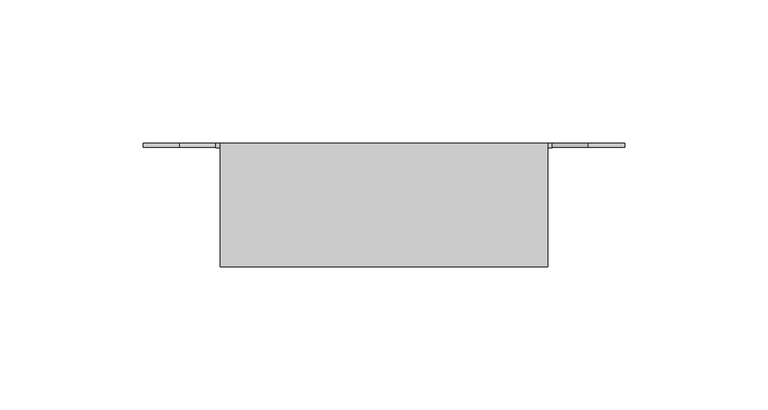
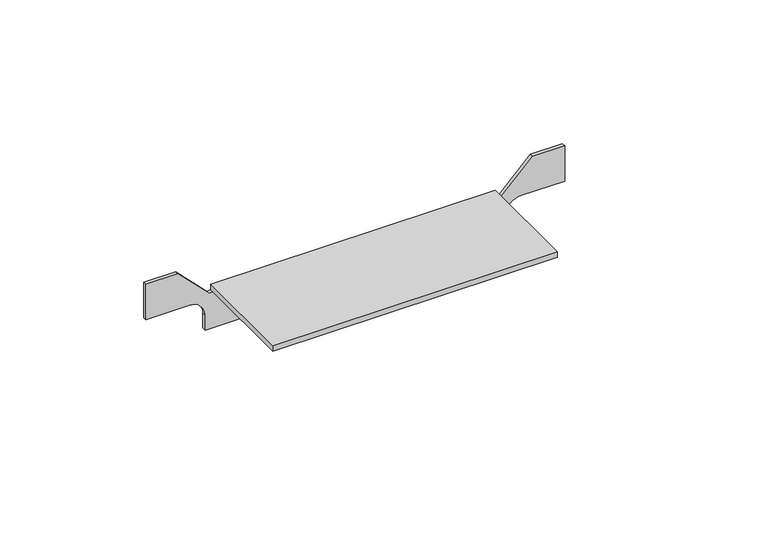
"""IFC4 building model written with IfcOpenShell, lengths in millimetres: proxy geometry, Device_Plate-Resource_Series-Wiremold-RFB4 : Side, For Two CM Series Adapter, DTB-2-2AB."""

from ifc_helpers import new_model, si_unit, frame, origin, place, context, project, spatial, polyline, circle_curve, source, transform, mapped, element, save
from ifc_brep_helpers import plane_surface, revolved_surface, advanced_brep


def electrical_fixtures_fcf9e8a6(model_context):
    return source(origin(), model_context, "Body", "AdvancedBrep", [
        advanced_brep(
        [(57.15, -807.5761924, 17.3736), (-57.15, -807.5761924, 17.3736), (-57.15, -850.7561924, 17.3736), (57.15, -850.7561924, 17.3736), (57.15, -850.7561924, 15.0876), (-57.15, -850.7561924, 15.0876), (-57.15, -809.1001924, 15.0876), (57.15, -809.1001924, 15.0876), (57.15, -807.5761924, 15.0876), (58.7248, -807.5761924, 15.0876), (71.3232, -807.5761924, 27.686), (84.1375, -807.5761924, 27.686), (84.1375, -807.5761924, 12.7), (66.675, -807.5761924, 12.7), (60.325, -807.5761924, 6.35), (60.325, -807.5761924, 0.0), (-60.325, -807.5761924, 0.0), (-60.325, -807.5761924, 6.35), (-66.675, -807.5761924, 12.7), (-84.1375, -807.5761924, 12.7), (-84.1375, -807.5761924, 27.686), (-71.3232, -807.5761924, 27.686), (-58.7248, -807.5761924, 15.0876), (-57.15, -807.5761924, 15.0876), (-84.1375, -809.1001924, 27.686), (-84.1375, -809.1001924, 12.7), (-66.675, -809.1001924, 12.7), (-60.325, -809.1001924, 6.35), (-60.325, -809.1001924, 0.0), (60.325, -809.1001924, 0.0), (60.325, -809.1001924, 6.35), (66.675, -809.1001924, 12.7), (84.1375, -809.1001924, 12.7), (84.1375, -809.1001924, 27.686), (71.3232, -809.1001924, 27.686), (58.7248, -809.1001924, 15.0876), (-58.7248, -809.1001924, 15.0876), (-71.3232, -809.1001924, 27.686)],
        [
            (0, 1),
            (1, 2),
            (2, 3),
            (3, 0),
            (4, 5),
            (5, 6),
            (6, 7),
            (7, 4),
            (0, 8),
            (8, 9),
            (9, 10),
            (10, 11),
            (11, 12),
            (12, 13),
            (13, 14, circle_curve(frame((66.675, -807.5761924, 6.35), z_axis=(0.0, -1.0, 0.0), x_axis=(1.0, 0.0, 0.0)), 6.35)),
            (14, 15),
            (15, 16),
            (16, 17),
            (17, 18, circle_curve(frame((-66.675, -807.5761924, 6.35), z_axis=(0.0, -1.0, 0.0), x_axis=(1.0, 0.0, 0.0)), 6.35)),
            (18, 19),
            (19, 20),
            (20, 21),
            (21, 22),
            (22, 23),
            (23, 1),
            (23, 6),
            (5, 2),
            (4, 3),
            (7, 8),
            (24, 25),
            (25, 26),
            (26, 27, circle_curve(frame((-66.675, -809.1001924, 6.35), z_axis=(0.0, 1.0, 0.0), x_axis=(1.0, 0.0, 0.0)), 6.35)),
            (27, 28),
            (28, 29),
            (29, 30),
            (30, 31, circle_curve(frame((66.675, -809.1001924, 6.35), z_axis=(0.0, 1.0, 0.0), x_axis=(1.0, 0.0, 0.0)), 6.35)),
            (31, 32),
            (32, 33),
            (33, 34),
            (34, 35),
            (35, 7),
            (6, 36),
            (36, 37),
            (37, 24),
            (24, 20),
            (19, 25),
            (18, 26),
            (17, 27),
            (16, 28),
            (15, 29),
            (14, 30),
            (13, 31),
            (12, 32),
            (11, 33),
            (10, 34),
            (9, 35),
            (22, 36),
            (21, 37),
        ],
        [
            plane_surface(frame((-59.6868519, -807.5761924, 17.3736), z_axis=(0.0, 0.0, 1.0), x_axis=(-1.0, 0.0, 0.0))),
            plane_surface(frame((-59.6868519, -807.5761924, 15.0876), z_axis=(0.0, 0.0, -1.0), x_axis=(1.0, 0.0, 0.0))),
            plane_surface(frame((57.15, -807.5761924, 17.3736), z_axis=(0.0, 1.0, 0.0), x_axis=(0.0, 0.0, -1.0))),
            plane_surface(frame((-57.15, -807.5761924, 17.3736), z_axis=(-1.0, 0.0, 0.0), x_axis=(0.0, 0.0, -1.0))),
            plane_surface(frame((-57.15, -850.7561924, 17.3736), z_axis=(0.0, -1.0, 0.0), x_axis=(0.0, 0.0, -1.0))),
            plane_surface(frame((57.15, -850.7561924, 17.3736), z_axis=(1.0, 0.0, 0.0), x_axis=(0.0, 0.0, -1.0))),
            plane_surface(frame((-84.1375, -809.1001924, 12.7), z_axis=(0.0, -1.0, 0.0), x_axis=(0.0, 0.0, -1.0))),
            plane_surface(frame((-84.1375, -809.1001924, 27.686), z_axis=(-1.0, 0.0, 0.0), x_axis=(0.0, 1.0, 0.0))),
            plane_surface(frame((-84.1375, -809.1001924, 12.7), z_axis=(0.0, 0.0, -1.0), x_axis=(0.0, 1.0, 0.0))),
            revolved_surface(polyline([(-60.324999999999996, -807.5761924, 6.35), (-60.324999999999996, -809.1001924, 6.35)]), (-66.675, -807.5761924, 6.35), (0.0, 1.0, 0.0)),
            plane_surface(frame((-60.325, -809.1001924, 6.35), z_axis=(-1.0, 0.0, 0.0), x_axis=(0.0, 1.0, 0.0))),
            plane_surface(frame((-60.325, -809.1001924, 0.0), z_axis=(0.0, 0.0, -1.0), x_axis=(0.0, 1.0, 0.0))),
            plane_surface(frame((60.325, -809.1001924, 0.0), z_axis=(1.0, 0.0, 0.0), x_axis=(0.0, 1.0, 0.0))),
            revolved_surface(polyline([(73.02499999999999, -807.5761924, 6.35), (73.02499999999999, -809.1001924, 6.35)]), (66.675, -807.5761924, 6.35), (0.0, 1.0, 0.0)),
            plane_surface(frame((66.675, -809.1001924, 12.7), z_axis=(0.0, 0.0, -1.0), x_axis=(0.0, 1.0, 0.0))),
            plane_surface(frame((84.1375, -809.1001924, 12.7), z_axis=(1.0, 0.0, 0.0), x_axis=(0.0, 1.0, 0.0))),
            plane_surface(frame((84.1375, -809.1001924, 27.686), z_axis=(0.0, 0.0, 1.0), x_axis=(0.0, 1.0, 0.0))),
            plane_surface(frame((71.3232, -809.1001924, 27.686), z_axis=(-0.7071067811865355, 0.0, 0.7071067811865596), x_axis=(0.0, 1.0, 0.0))),
            plane_surface(frame((58.7248, -809.1001924, 15.0876), z_axis=(0.0, 0.0, 1.0), x_axis=(0.0, 1.0, 0.0))),
            plane_surface(frame((-58.7248, -809.1001924, 15.0876), z_axis=(0.7071067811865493, 0.0, 0.7071067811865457), x_axis=(0.0, 1.0, 0.0))),
            plane_surface(frame((-71.3232, -809.1001924, 27.686), z_axis=(0.0, 0.0, 1.0), x_axis=(0.0, 1.0, 0.0))),
        ],
        [
            (0, [[1, 2, 3, 4]]),
            (1, [[5, 6, 7, 8]]),
            (2, [[-1, 9, 10, 11, 12, 13, 14, 15, 16, 17, 18, 19, 20, 21, 22, 23, 24, 25]]),
            (3, [[-2, -25, 26, -6, 27]]),
            (4, [[-3, -27, -5, 28]]),
            (5, [[-4, -28, -8, 29, -9]]),
            (6, [[30, 31, 32, 33, 34, 35, 36, 37, 38, 39, 40, 41, -7, 42, 43, 44]]),
            (7, [[-30, 45, -21, 46]]),
            (8, [[-31, -46, -20, 47]]),
            (9, [[-32, -47, -19, 48]]),
            (10, [[-33, -48, -18, 49]]),
            (11, [[-34, -49, -17, 50]]),
            (12, [[-35, -50, -16, 51]]),
            (13, [[-36, -51, -15, 52]]),
            (14, [[-37, -52, -14, 53]]),
            (15, [[-38, -53, -13, 54]]),
            (16, [[-39, -54, -12, 55]]),
            (17, [[-40, -55, -11, 56]]),
            (18, [[-56, -10, -29, -41]]),
            (18, [[57, -42, -26, -24]]),
            (19, [[-43, -57, -23, 58]]),
            (20, [[-44, -58, -22, -45]]),
        ],
    ),
    ])


if __name__ == "__main__":
    model = new_model("IFC4")
    model_context = context("Model", 3, world=origin())
    ifc_project = project(units=[si_unit("LENGTHUNIT", "METRE", prefix="MILLI")], contexts=[model_context])
    site = spatial("IfcSite", under=ifc_project)
    building = spatial("IfcBuilding", under=site)
    placement = place(None, origin())
    electrical_fixtures_shape = electrical_fixtures_fcf9e8a6(model_context)
    element("IfcBuildingElementProxy", 1, Name="Device_Plate-Resource_Series-Wiremold-RFB4 : Side, For Two CM Series Adapter, DTB-2-2AB", ObjectType="Device_Plate-Resource_Series-Wiremold-RFB4 : Side, For Two CM Series Adapter, DTB-2-2AB", at=placement, inside=building, context=model_context, shape_type="MappedRepresentation", body=[
        mapped(electrical_fixtures_shape, transform((0.0, 0.0, 0.0), x_axis=(1.0, 0.0, 0.0), y_axis=(0.0, 1.0, 0.0), z_axis=(0.0, 0.0, 1.0))),
    ])
    save(model, "model.ifc")
